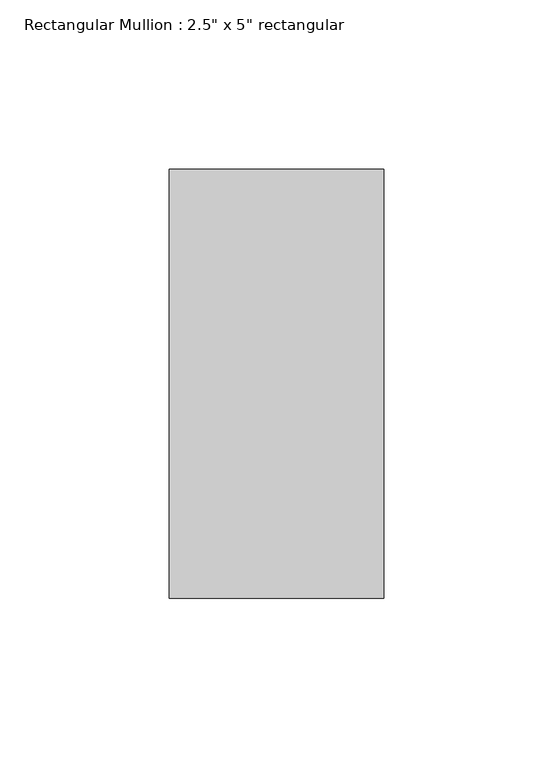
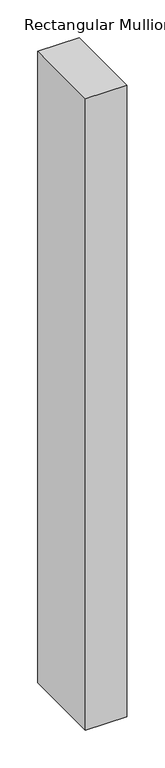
"""IFC4 building model written with IfcOpenShell, lengths in millimetres: member geometry."""

from ifc_helpers import new_model, si_unit, frame, origin, place, context, project, spatial, polyline, outline, extrude, source, transform, mapped, element, save


def member_37e585cc(model_context):
    return source(origin(), model_context, "Body", "SweptSolid", [
        extrude(outline(polyline([(0.0, 76.2), (0.0, -50.8), (-63.5, -50.8), (-63.5, 76.2), (0.0, 76.2)])), frame((0.0, 0.0, -1023.9375), z_axis=(0.0, 0.0, 1.0), x_axis=(1.0, 0.0, 0.0)), (0.0, 0.0, 1.0), 1023.9375),
    ])


if __name__ == "__main__":
    model = new_model("IFC4")
    model_context = context("Model", 3, world=origin())
    ifc_project = project(units=[si_unit("LENGTHUNIT", "METRE", prefix="MILLI")], contexts=[model_context])
    site = spatial("IfcSite", under=ifc_project)
    building = spatial("IfcBuilding", under=site)
    placement = place(None, origin())
    member_shape = member_37e585cc(model_context)
    element("IfcMember", 1, ObjectType="Rectangular Mullion : 2.5\" x 5\" rectangular", at=placement, inside=building, context=model_context, shape_type="MappedRepresentation", body=[
        mapped(member_shape, transform((0.0, 0.0, 0.0), x_axis=(1.0, 0.0, 0.0), y_axis=(0.0, 1.0, 0.0), z_axis=(0.0, 0.0, 1.0))),
    ])
    save(model, "model.ifc")
